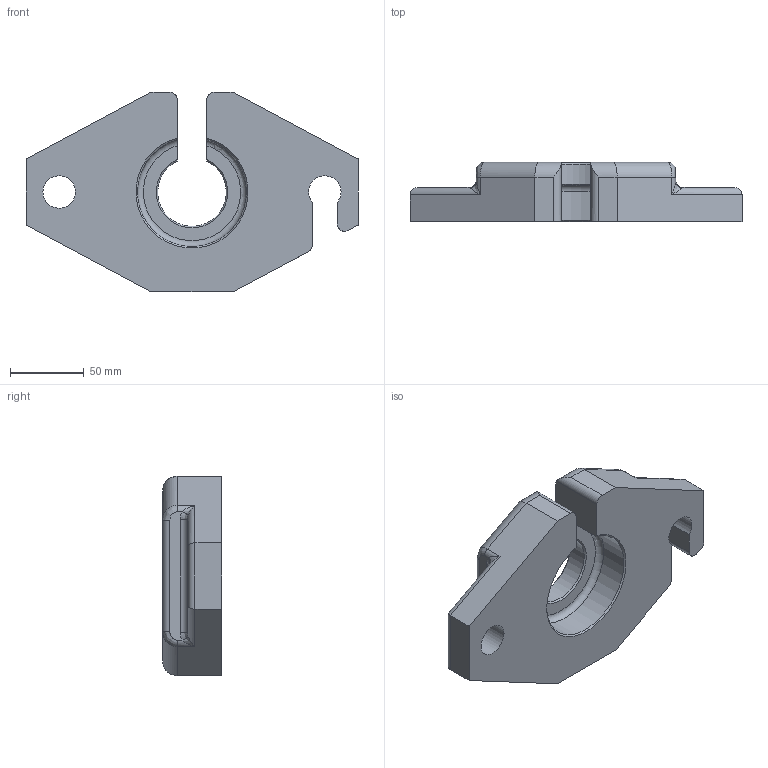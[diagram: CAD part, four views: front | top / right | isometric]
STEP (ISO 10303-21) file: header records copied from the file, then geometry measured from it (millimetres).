
FILE_DESCRIPTION(/* description */ (''),/* implementation_level */ '2;1');
FILE_NAME(/* name */ 'C:/Users/fardi/Dropbox/Work/Anyload/Load Cell Models/Product Catalog 3D/Weight Modules/106/106MHM1/106MHM1-20klb v2.step',/* time_stamp */ '2020-04-30T10:59:54-07:00',/* author */ (''),/* organization */ (''),/* preprocessor_version */ 'ST-DEVELOPER v18.1',/* originating_system */ 'Autodesk Translation Framework v9.2.0.1227',/* authorisation */ '');
FILE_SCHEMA (('AUTOMOTIVE_DESIGN { 1 0 10303 214 3 1 1 }'));
Length unit declared in the file: millimetre
Products named in the file (2): 106MHM1-20klb; Base
Assembly tree (1 placements, depth 2):
  106MHM1-20klb
    Base
Bounding box: 225 x 40 x 135 mm (x, y, z)
Volume: 609551.4 mm3; surface area: 68775.4 mm2
Topology: 1 solids, 1 shells, 67 faces, 171 edges, 102 vertices
Faces by surface type: cylinder 30, plane 21, bspline 12, cone 3, torus 1
Full cylindrical faces by diameter (mm): 22 x1
Entity records: 2384 total; most frequent: CARTESIAN_POINT 741, DIRECTION 343, ORIENTED_EDGE 334, EDGE_CURVE 167, AXIS2_PLACEMENT_3D 128, VERTEX_POINT 102, LINE 87, VECTOR 87
